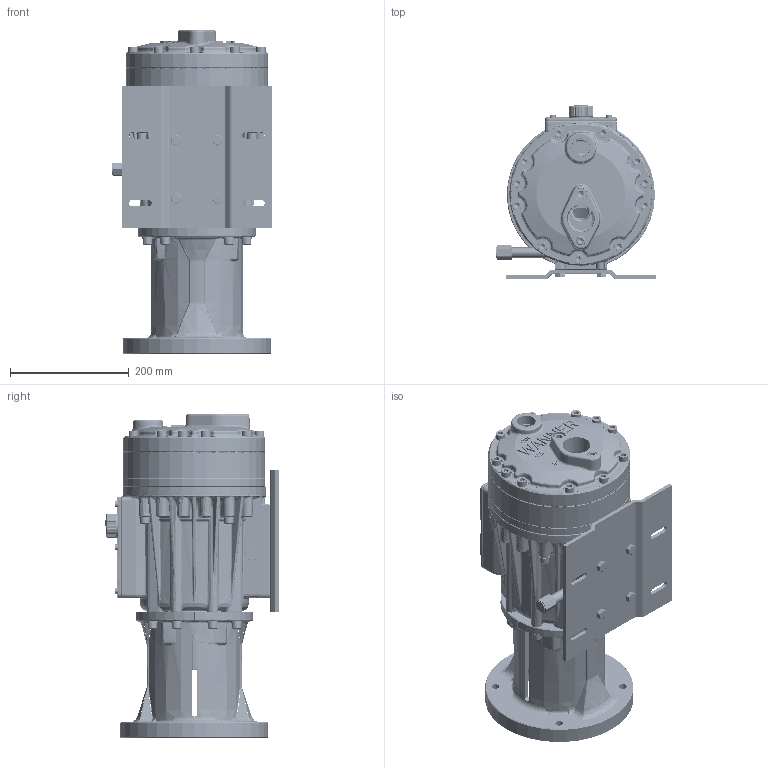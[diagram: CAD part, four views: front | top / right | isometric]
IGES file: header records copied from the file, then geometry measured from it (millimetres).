
Start section: SolidWorks IGES file using analytic representation for surfaces
Global section: file name: Q:\ENG\!!Gary\Outline-Dwgs\Latest-Pump-etc-OD\G25-M-1203-OD.IGS; native system: SolidWorks 2007; preprocessor: SolidWorks 2007; author: garyi; date: 081104.132201; units: inch
Bounding box: 269.87 x 293.87 x 545.95 mm (x, y, z)
Surface area: 1800921 mm2 (no closed solid volume)
Topology: 0 solids, 0 shells, 11380 faces, 134373 edges, 134298 vertices
Faces by surface type: revolution 6716, bspline 4664
